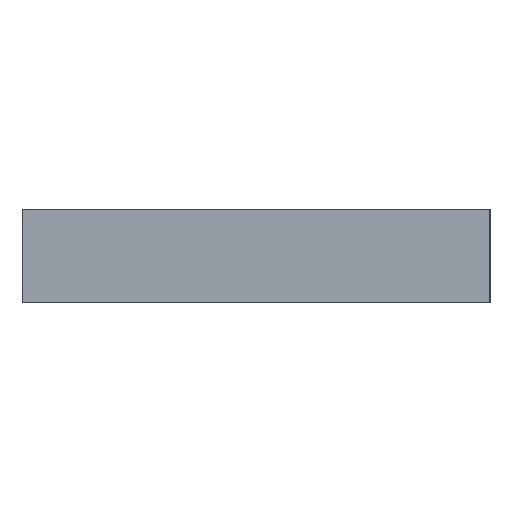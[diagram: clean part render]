
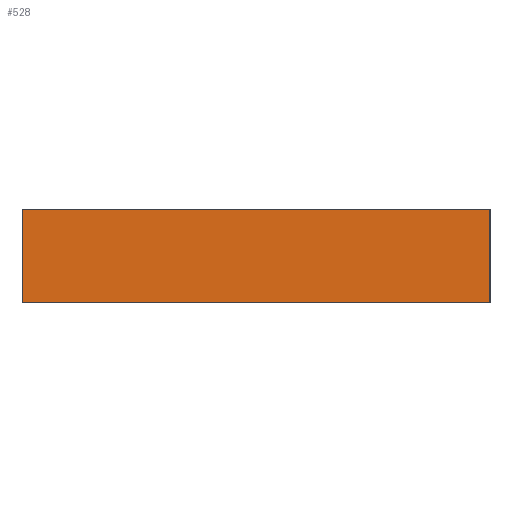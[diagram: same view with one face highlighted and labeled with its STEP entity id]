
A CAD part, left-side view. The second image highlights one B-rep face of the part: STEP entity #528.
In plain terms, the highlighted planar face has unit normal (-1, 0, 0).
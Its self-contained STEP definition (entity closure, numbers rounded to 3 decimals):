
#273=ORIENTED_EDGE('',*,*,#362,.T.);
#274=ORIENTED_EDGE('',*,*,#363,.T.);
#275=ORIENTED_EDGE('',*,*,#359,.T.);
#276=ORIENTED_EDGE('',*,*,#364,.T.);
#316=VECTOR('',#440,1.);
#319=VECTOR('',#445,1.);
#320=VECTOR('',#446,1.);
#321=VECTOR('',#447,1.);
#328=LINE('',#550,#316);
#331=LINE('',#557,#319);
#332=LINE('',#558,#320);
#333=LINE('',#559,#321);
#340=VERTEX_POINT('',#547);
#341=VERTEX_POINT('',#549);
#343=VERTEX_POINT('',#555);
#344=VERTEX_POINT('',#556);
#359=EDGE_CURVE('',#341,#340,#328,.T.);
#362=EDGE_CURVE('',#343,#344,#331,.T.);
#363=EDGE_CURVE('',#344,#341,#332,.T.);
#364=EDGE_CURVE('',#340,#343,#333,.T.);
#382=EDGE_LOOP('',(#273,#274,#275,#276));
#410=FACE_BOUND('',#382,.T.);
#440=DIRECTION('',(0.,0.,12.));
#443=DIRECTION('',(-1.,0.,0.));
#444=DIRECTION('',(0.,1.,0.));
#445=DIRECTION('',(0.,0.,-12.));
#446=DIRECTION('',(0.,-60.,0.));
#447=DIRECTION('',(0.,60.,0.));
#498=AXIS2_PLACEMENT_3D('',#554,#443,#444);
#522=PLANE('',#498);
#528=ADVANCED_FACE('',(#410),#522,.T.);
#547=CARTESIAN_POINT('',(0.,-30.,6.));
#549=CARTESIAN_POINT('',(0.,-30.,-6.));
#550=CARTESIAN_POINT('',(0.,-30.,-6.));
#554=CARTESIAN_POINT('',(0.,30.,6.));
#555=CARTESIAN_POINT('',(0.,30.,6.));
#556=CARTESIAN_POINT('',(0.,30.,-6.));
#557=CARTESIAN_POINT('',(0.,30.,6.));
#558=CARTESIAN_POINT('',(0.,30.,-6.));
#559=CARTESIAN_POINT('',(0.,-30.,6.));
